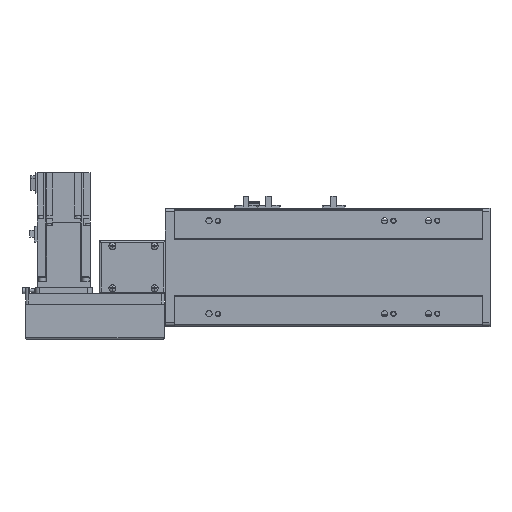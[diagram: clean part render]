
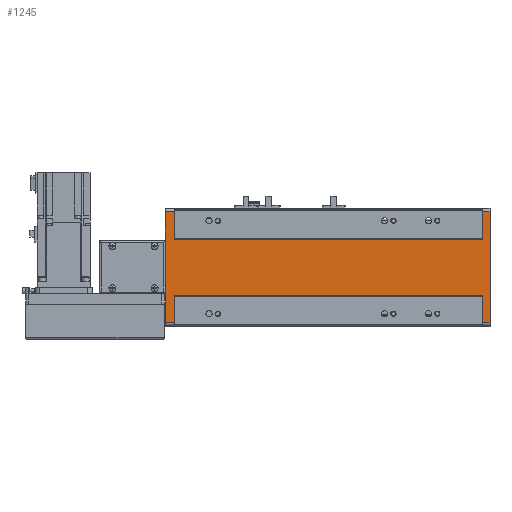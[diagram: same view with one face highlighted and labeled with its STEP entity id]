
A CAD part, front view. The second image highlights one B-rep face of the part: STEP entity #1245.
In plain terms, the highlighted planar face has unit normal (0, -1, 0).
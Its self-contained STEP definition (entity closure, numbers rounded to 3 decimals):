
#1245 = ADVANCED_FACE( '', ( #3271 ), #3272, .F. );
#3271 = FACE_OUTER_BOUND( '', #6330, .T. );
#3272 = PLANE( '', #6331 );
#6330 = EDGE_LOOP( '', ( #9843, #9844, #9845, #9846, #9847, #9848, #9849, #9850, #9851, #9852, #9853, #9854 ) );
#6331 = AXIS2_PLACEMENT_3D( '', #9855, #9856, #9857 );
#9843 = ORIENTED_EDGE( '', *, *, #17956, .T. );
#9844 = ORIENTED_EDGE( '', *, *, #17896, .F. );
#9845 = ORIENTED_EDGE( '', *, *, #17957, .F. );
#9846 = ORIENTED_EDGE( '', *, *, #17673, .T. );
#9847 = ORIENTED_EDGE( '', *, *, #17958, .T. );
#9848 = ORIENTED_EDGE( '', *, *, #17959, .F. );
#9849 = ORIENTED_EDGE( '', *, *, #17960, .F. );
#9850 = ORIENTED_EDGE( '', *, *, #17961, .T. );
#9851 = ORIENTED_EDGE( '', *, *, #17962, .F. );
#9852 = ORIENTED_EDGE( '', *, *, #17963, .F. );
#9853 = ORIENTED_EDGE( '', *, *, #17964, .T. );
#9854 = ORIENTED_EDGE( '', *, *, #17965, .T. );
#9855 = CARTESIAN_POINT( '', ( 362., 1., 32. ) );
#9856 = DIRECTION( '', ( 0., 1., 0. ) );
#9857 = DIRECTION( '', ( 0., 0., 1. ) );
#17673 = EDGE_CURVE( '', #21073, #21071, #21074, .T. );
#17896 = EDGE_CURVE( '', #21474, #21476, #21477, .T. );
#17956 = EDGE_CURVE( '', #21579, #21476, #21580, .T. );
#17957 = EDGE_CURVE( '', #21073, #21474, #21581, .T. );
#17958 = EDGE_CURVE( '', #21071, #21582, #21583, .T. );
#17959 = EDGE_CURVE( '', #21584, #21582, #21585, .T. );
#17960 = EDGE_CURVE( '', #21586, #21584, #21587, .T. );
#17961 = EDGE_CURVE( '', #21586, #21588, #21589, .T. );
#17962 = EDGE_CURVE( '', #21590, #21588, #21591, .T. );
#17963 = EDGE_CURVE( '', #21592, #21590, #21593, .T. );
#17964 = EDGE_CURVE( '', #21592, #21594, #21595, .T. );
#17965 = EDGE_CURVE( '', #21594, #21579, #21596, .T. );
#21071 = VERTEX_POINT( '', #26062 );
#21073 = VERTEX_POINT( '', #26064 );
#21074 = LINE( '', #26065, #26066 );
#21474 = VERTEX_POINT( '', #26658 );
#21476 = VERTEX_POINT( '', #26660 );
#21477 = LINE( '', #26661, #26662 );
#21579 = VERTEX_POINT( '', #26800 );
#21580 = LINE( '', #26801, #26802 );
#21581 = LINE( '', #26803, #26804 );
#21582 = VERTEX_POINT( '', #26805 );
#21583 = LINE( '', #26806, #26807 );
#21584 = VERTEX_POINT( '', #26808 );
#21585 = LINE( '', #26809, #26810 );
#21586 = VERTEX_POINT( '', #26811 );
#21587 = LINE( '', #26812, #26813 );
#21588 = VERTEX_POINT( '', #26814 );
#21589 = LINE( '', #26815, #26816 );
#21590 = VERTEX_POINT( '', #26817 );
#21591 = LINE( '', #26818, #26819 );
#21592 = VERTEX_POINT( '', #26820 );
#21593 = LINE( '', #26821, #26822 );
#21594 = VERTEX_POINT( '', #26823 );
#21595 = LINE( '', #26824, #26825 );
#21596 = LINE( '', #26826, #26827 );
#26062 = CARTESIAN_POINT( '', ( 0., 1., -63.127 ) );
#26064 = CARTESIAN_POINT( '', ( 0., 1., 63.127 ) );
#26065 = CARTESIAN_POINT( '', ( 0., 1., 63.127 ) );
#26066 = VECTOR( '', #32738, 1000. );
#26658 = CARTESIAN_POINT( '', ( 11., 1., 63.127 ) );
#26660 = CARTESIAN_POINT( '', ( 11., 1., 32. ) );
#26661 = CARTESIAN_POINT( '', ( 11., 1., 63.127 ) );
#26662 = VECTOR( '', #33025, 1000. );
#26800 = CARTESIAN_POINT( '', ( 362., 1., 32. ) );
#26801 = CARTESIAN_POINT( '', ( 362., 1., 32. ) );
#26802 = VECTOR( '', #33098, 1000. );
#26803 = CARTESIAN_POINT( '', ( 0., 1., 63.127 ) );
#26804 = VECTOR( '', #33099, 1000. );
#26805 = CARTESIAN_POINT( '', ( 11., 1., -63.127 ) );
#26806 = CARTESIAN_POINT( '', ( 0., 1., -63.127 ) );
#26807 = VECTOR( '', #33100, 1000. );
#26808 = CARTESIAN_POINT( '', ( 11., 1., -32. ) );
#26809 = CARTESIAN_POINT( '', ( 11., 1., 63.127 ) );
#26810 = VECTOR( '', #33101, 1000. );
#26811 = CARTESIAN_POINT( '', ( 362., 1., -32. ) );
#26812 = CARTESIAN_POINT( '', ( 362., 1., -32. ) );
#26813 = VECTOR( '', #33102, 1000. );
#26814 = CARTESIAN_POINT( '', ( 362., 1., -63.127 ) );
#26815 = CARTESIAN_POINT( '', ( 362., 1., 63.127 ) );
#26816 = VECTOR( '', #33103, 1000. );
#26817 = CARTESIAN_POINT( '', ( 370., 1., -63.127 ) );
#26818 = CARTESIAN_POINT( '', ( 370., 1., -63.127 ) );
#26819 = VECTOR( '', #33104, 1000. );
#26820 = CARTESIAN_POINT( '', ( 370., 1., 63.127 ) );
#26821 = CARTESIAN_POINT( '', ( 370., 1., 63.127 ) );
#26822 = VECTOR( '', #33105, 1000. );
#26823 = CARTESIAN_POINT( '', ( 362., 1., 63.127 ) );
#26824 = CARTESIAN_POINT( '', ( 370., 1., 63.127 ) );
#26825 = VECTOR( '', #33106, 1000. );
#26826 = CARTESIAN_POINT( '', ( 362., 1., 63.127 ) );
#26827 = VECTOR( '', #33107, 1000. );
#32738 = DIRECTION( '', ( 0., 0., -1. ) );
#33025 = DIRECTION( '', ( 0., 0., -1. ) );
#33098 = DIRECTION( '', ( -1., 0., 0. ) );
#33099 = DIRECTION( '', ( 1., 0., 0. ) );
#33100 = DIRECTION( '', ( 1., 0., 0. ) );
#33101 = DIRECTION( '', ( 0., 0., -1. ) );
#33102 = DIRECTION( '', ( -1., 0., 0. ) );
#33103 = DIRECTION( '', ( 0., 0., -1. ) );
#33104 = DIRECTION( '', ( -1., 0., 0. ) );
#33105 = DIRECTION( '', ( 0., 0., -1. ) );
#33106 = DIRECTION( '', ( -1., 0., 0. ) );
#33107 = DIRECTION( '', ( 0., 0., -1. ) );
